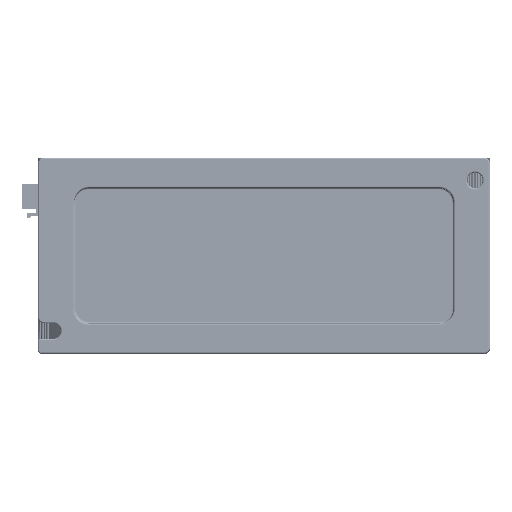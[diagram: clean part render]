
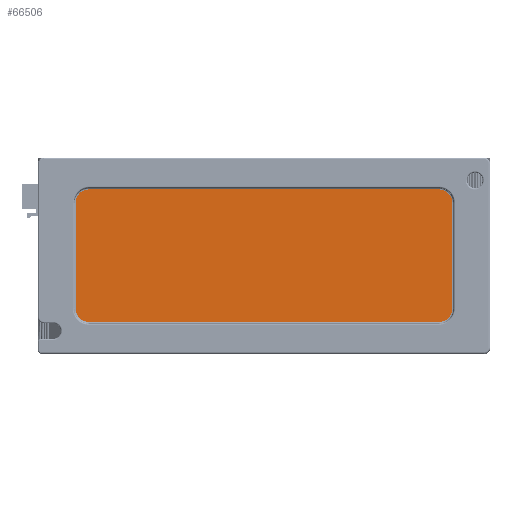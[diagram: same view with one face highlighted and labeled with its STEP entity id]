
A CAD part, top view. The second image highlights one B-rep face of the part: STEP entity #66506.
In plain terms, the highlighted planar face has unit normal (0, 0, 1).
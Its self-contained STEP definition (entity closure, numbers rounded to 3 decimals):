
#39386=DIRECTION('',(0.,-1.,0.));
#39387=VECTOR('',#39386,35.);
#39388=CARTESIAN_POINT('',(62.5,50.,-3.));
#39389=LINE('',#39388,#39387);
#39390=CARTESIAN_POINT('',(58.,15.,-3.));
#39391=DIRECTION('',(0.,0.,-1.));
#39392=DIRECTION('',(1.,0.,0.));
#39393=AXIS2_PLACEMENT_3D('',#39390,#39391,#39392);
#39395=DIRECTION('',(-1.,0.,0.));
#39396=VECTOR('',#39395,116.);
#39397=CARTESIAN_POINT('',(58.,10.5,-3.));
#39398=LINE('',#39397,#39396);
#39399=CARTESIAN_POINT('',(-58.,15.,-3.));
#39400=DIRECTION('',(0.,0.,-1.));
#39401=DIRECTION('',(0.,-1.,0.));
#39402=AXIS2_PLACEMENT_3D('',#39399,#39400,#39401);
#39404=DIRECTION('',(0.,1.,0.));
#39405=VECTOR('',#39404,35.);
#39406=CARTESIAN_POINT('',(-62.5,15.,-3.));
#39407=LINE('',#39406,#39405);
#39408=CARTESIAN_POINT('',(-58.,50.,-3.));
#39409=DIRECTION('',(0.,0.,-1.));
#39410=DIRECTION('',(-1.,0.,0.));
#39411=AXIS2_PLACEMENT_3D('',#39408,#39409,#39410);
#39413=DIRECTION('',(1.,0.,0.));
#39414=VECTOR('',#39413,116.);
#39415=CARTESIAN_POINT('',(-58.,54.5,-3.));
#39416=LINE('',#39415,#39414);
#39417=CARTESIAN_POINT('',(58.,50.,-3.));
#39418=DIRECTION('',(0.,0.,-1.));
#39419=DIRECTION('',(0.,1.,0.));
#39420=AXIS2_PLACEMENT_3D('',#39417,#39418,#39419);
#42257=CARTESIAN_POINT('',(62.5,50.,-3.));
#42258=CARTESIAN_POINT('',(62.5,15.,-3.));
#42259=VERTEX_POINT('',#42257);
#42260=VERTEX_POINT('',#42258);
#42265=CARTESIAN_POINT('',(58.,10.5,-3.));
#42266=VERTEX_POINT('',#42265);
#42269=CARTESIAN_POINT('',(-58.,10.5,-3.));
#42270=VERTEX_POINT('',#42269);
#42273=CARTESIAN_POINT('',(-62.5,15.,-3.));
#42274=VERTEX_POINT('',#42273);
#42277=CARTESIAN_POINT('',(-62.5,50.,-3.));
#42278=VERTEX_POINT('',#42277);
#42281=CARTESIAN_POINT('',(-58.,54.5,-3.));
#42282=VERTEX_POINT('',#42281);
#42285=CARTESIAN_POINT('',(58.,54.5,-3.));
#42286=VERTEX_POINT('',#42285);
#66484=CARTESIAN_POINT('',(0.,0.,-3.));
#66485=DIRECTION('',(0.,0.,1.));
#66486=DIRECTION('',(1.,0.,0.));
#66487=AXIS2_PLACEMENT_3D('',#66484,#66485,#66486);
#66488=PLANE('',#66487);
#66490=ORIENTED_EDGE('',*,*,#66489,.T.);
#66492=ORIENTED_EDGE('',*,*,#66491,.T.);
#66494=ORIENTED_EDGE('',*,*,#66493,.T.);
#66496=ORIENTED_EDGE('',*,*,#66495,.T.);
#66497=ORIENTED_EDGE('',*,*,#66474,.T.);
#66499=ORIENTED_EDGE('',*,*,#66498,.T.);
#66501=ORIENTED_EDGE('',*,*,#66500,.T.);
#66503=ORIENTED_EDGE('',*,*,#66502,.T.);
#66504=EDGE_LOOP('',(#66490,#66492,#66494,#66496,#66497,#66499,#66501,#66503));
#66505=FACE_OUTER_BOUND('',#66504,.F.);
#66506=ADVANCED_FACE('',(#66505),#66488,.T.);
#39394=CIRCLE('',#39393,4.5);
#39403=CIRCLE('',#39402,4.5);
#39412=CIRCLE('',#39411,4.5);
#39421=CIRCLE('',#39420,4.5);
#66474=EDGE_CURVE('',#42274,#42278,#39407,.T.);
#66489=EDGE_CURVE('',#42259,#42260,#39389,.T.);
#66491=EDGE_CURVE('',#42260,#42266,#39394,.T.);
#66493=EDGE_CURVE('',#42266,#42270,#39398,.T.);
#66495=EDGE_CURVE('',#42270,#42274,#39403,.T.);
#66498=EDGE_CURVE('',#42278,#42282,#39412,.T.);
#66500=EDGE_CURVE('',#42282,#42286,#39416,.T.);
#66502=EDGE_CURVE('',#42286,#42259,#39421,.T.);
